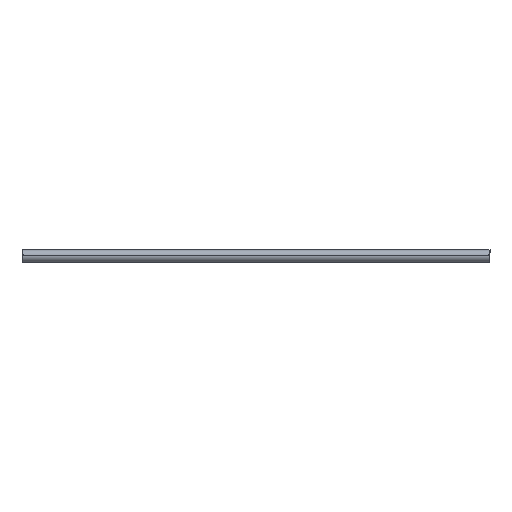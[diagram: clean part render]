
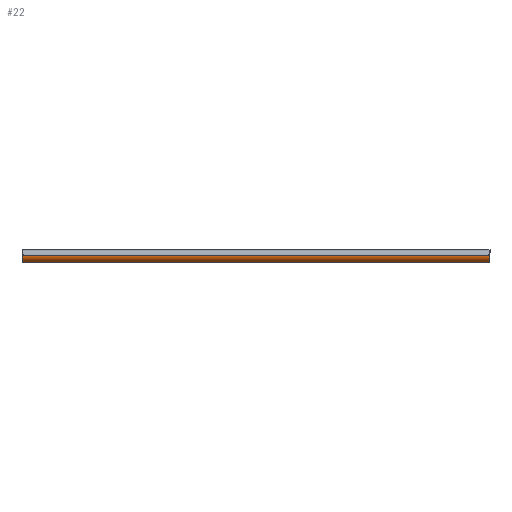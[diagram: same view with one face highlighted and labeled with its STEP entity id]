
A CAD part, top view. The second image highlights one B-rep face of the part: STEP entity #22.
In plain terms, the highlighted cylindrical face has radius 15.998 mm (diameter 31.997 mm), a partial arc.
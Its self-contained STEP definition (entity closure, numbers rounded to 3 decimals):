
#14=FACE_BOUND('',#71,.T.);
#22=ADVANCED_FACE('',(#46,#14),#384,.T.);
#46=FACE_OUTER_BOUND('',#70,.T.);
#70=EDGE_LOOP('',(#106,#107,#108,#109));
#71=EDGE_LOOP('',(#110,#111,#112,#113));
#106=ORIENTED_EDGE('',*,*,#253,.T.);
#107=ORIENTED_EDGE('',*,*,#208,.F.);
#108=ORIENTED_EDGE('',*,*,#207,.F.);
#109=ORIENTED_EDGE('',*,*,#206,.T.);
#110=ORIENTED_EDGE('',*,*,#237,.T.);
#111=ORIENTED_EDGE('',*,*,#234,.F.);
#112=ORIENTED_EDGE('',*,*,#239,.F.);
#113=ORIENTED_EDGE('',*,*,#233,.F.);
#206=EDGE_CURVE('',#336,#368,#288,.T.);
#207=EDGE_CURVE('',#336,#337,#272,.T.);
#208=EDGE_CURVE('',#337,#369,#289,.T.);
#233=EDGE_CURVE('',#354,#355,#279,.T.);
#234=EDGE_CURVE('',#356,#357,#280,.T.);
#237=EDGE_CURVE('',#354,#357,#302,.T.);
#239=EDGE_CURVE('',#355,#356,#304,.T.);
#253=EDGE_CURVE('',#368,#369,#285,.T.);
#272=(
BOUNDED_CURVE()
B_SPLINE_CURVE(1,(#681,#682),.UNSPECIFIED.,.F.,.F.)
B_SPLINE_CURVE_WITH_KNOTS((2,2),(0.,1211.999),.UNSPECIFIED.)
CURVE()
GEOMETRIC_REPRESENTATION_ITEM()
RATIONAL_B_SPLINE_CURVE((1.,1.))
REPRESENTATION_ITEM('')
);
#279=(
BOUNDED_CURVE()
B_SPLINE_CURVE(1,(#746,#747),.UNSPECIFIED.,.F.,.F.)
B_SPLINE_CURVE_WITH_KNOTS((2,2),(-1206.,-6.),
 .UNSPECIFIED.)
CURVE()
GEOMETRIC_REPRESENTATION_ITEM()
RATIONAL_B_SPLINE_CURVE((1.,1.))
REPRESENTATION_ITEM('')
);
#280=(
BOUNDED_CURVE()
B_SPLINE_CURVE(1,(#748,#749),.UNSPECIFIED.,.F.,.F.)
B_SPLINE_CURVE_WITH_KNOTS((2,2),(6.,1206.),
 .UNSPECIFIED.)
CURVE()
GEOMETRIC_REPRESENTATION_ITEM()
RATIONAL_B_SPLINE_CURVE((1.,1.))
REPRESENTATION_ITEM('')
);
#285=(
BOUNDED_CURVE()
B_SPLINE_CURVE(1,(#892,#893),.UNSPECIFIED.,.F.,.F.)
B_SPLINE_CURVE_WITH_KNOTS((2,2),(0.,1211.999),.UNSPECIFIED.)
CURVE()
GEOMETRIC_REPRESENTATION_ITEM()
RATIONAL_B_SPLINE_CURVE((1.,1.))
REPRESENTATION_ITEM('')
);
#288=TRIMMED_CURVE($,#312,(#679),(#680),.T.,.CARTESIAN.);
#289=TRIMMED_CURVE($,#313,(#684),(#685),.T.,.CARTESIAN.);
#302=TRIMMED_CURVE($,#326,(#755),(#756),.T.,.CARTESIAN.);
#304=TRIMMED_CURVE($,#328,(#761),(#762),.T.,.CARTESIAN.);
#312=CIRCLE('',#508,15.998);
#313=CIRCLE('',#509,15.998);
#326=CIRCLE('',#522,15.998);
#328=CIRCLE('',#524,15.998);
#336=VERTEX_POINT('',#634);
#337=VERTEX_POINT('',#635);
#354=VERTEX_POINT('',#652);
#355=VERTEX_POINT('',#653);
#356=VERTEX_POINT('',#654);
#357=VERTEX_POINT('',#655);
#368=VERTEX_POINT('',#666);
#369=VERTEX_POINT('',#667);
#384=CYLINDRICAL_SURFACE('',#486,15.998);
#486=AXIS2_PLACEMENT_3D('',#612,#537,$);
#508=AXIS2_PLACEMENT_3D($,#678,#561,#562);
#509=AXIS2_PLACEMENT_3D($,#683,#563,#564);
#522=AXIS2_PLACEMENT_3D($,#754,#589,#590);
#524=AXIS2_PLACEMENT_3D($,#760,#593,#594);
#537=DIRECTION('',(1.,0.,0.));
#561=DIRECTION('',(1.,0.,0.));
#562=DIRECTION('',(0.,0.,1.));
#563=DIRECTION('',(1.,0.,0.));
#564=DIRECTION('',(0.,0.,1.));
#589=DIRECTION('',(1.,0.,0.));
#590=DIRECTION('',(0.,-0.55,-0.835));
#593=DIRECTION('',(1.,0.,0.));
#594=DIRECTION('',(0.,-0.55,-0.835));
#612=CARTESIAN_POINT('',(0.,0.,-15.998));
#634=CARTESIAN_POINT('',(-606.,0.001,0.));
#635=CARTESIAN_POINT('',(606.,0.001,0.));
#652=CARTESIAN_POINT('',(600.,-8.795,-29.363));
#653=CARTESIAN_POINT('',(-600.,-8.795,-29.363));
#654=CARTESIAN_POINT('',(-600.,-6.508,-30.614));
#655=CARTESIAN_POINT('',(600.,-6.508,-30.614));
#666=CARTESIAN_POINT('',(-606.,-0.001,-31.997));
#667=CARTESIAN_POINT('',(606.,-0.001,-31.997));
#678=CARTESIAN_POINT('',(-606.,0.,-15.998));
#679=CARTESIAN_POINT('',(-606.,0.001,0.));
#680=CARTESIAN_POINT('',(-606.,-0.001,-31.997));
#681=CARTESIAN_POINT('',(-606.,0.001,0.));
#682=CARTESIAN_POINT('',(606.,0.001,0.));
#683=CARTESIAN_POINT('',(606.,0.,-15.998));
#684=CARTESIAN_POINT('',(606.,0.001,0.));
#685=CARTESIAN_POINT('',(606.,-0.001,-31.997));
#746=CARTESIAN_POINT('',(600.,-8.795,-29.363));
#747=CARTESIAN_POINT('',(-600.,-8.795,-29.363));
#748=CARTESIAN_POINT('',(-600.,-6.508,-30.614));
#749=CARTESIAN_POINT('',(600.,-6.508,-30.614));
#754=CARTESIAN_POINT('',(600.,0.,-15.998));
#755=CARTESIAN_POINT('',(600.,-8.795,-29.363));
#756=CARTESIAN_POINT('',(600.,-6.508,-30.614));
#760=CARTESIAN_POINT('',(-600.,0.,-15.998));
#761=CARTESIAN_POINT('',(-600.,-8.795,-29.363));
#762=CARTESIAN_POINT('',(-600.,-6.508,-30.614));
#892=CARTESIAN_POINT('',(-606.,-0.001,-31.997));
#893=CARTESIAN_POINT('',(606.,-0.001,-31.997));
